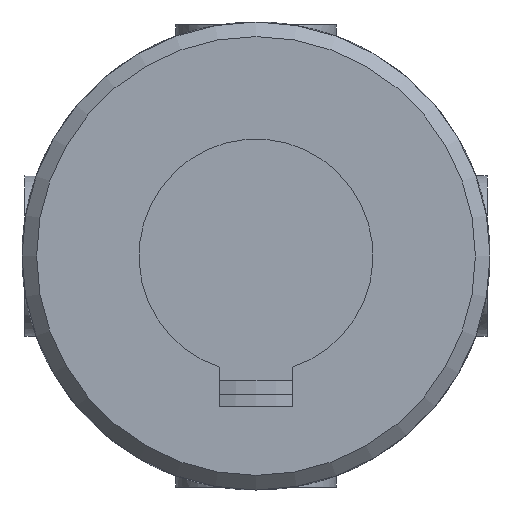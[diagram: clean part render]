
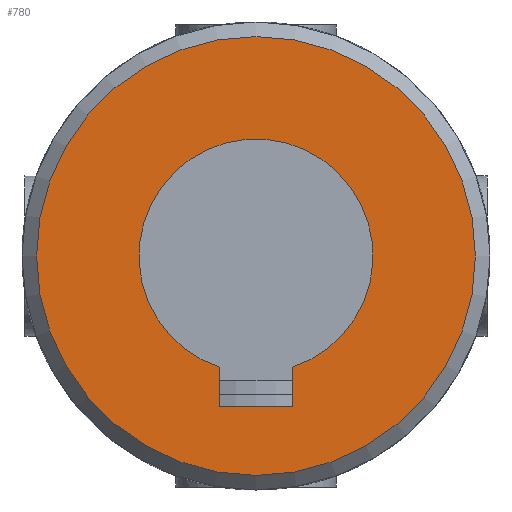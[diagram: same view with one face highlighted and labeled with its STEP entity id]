
A CAD part, front view. The second image highlights one B-rep face of the part: STEP entity #780.
In plain terms, the highlighted planar face has unit normal (0, -1, 0).
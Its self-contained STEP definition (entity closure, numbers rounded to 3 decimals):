
#87=LINE('',#1204,#120);
#92=LINE('',#1221,#125);
#93=LINE('',#1230,#126);
#120=VECTOR('',#980,2.701);
#125=VECTOR('',#991,2.701);
#126=VECTOR('',#994,5.);
#152=PLANE('',#851);
#177=FACE_BOUND('',#269,.T.);
#204=FACE_OUTER_BOUND('',#268,.T.);
#268=EDGE_LOOP('',(#613));
#269=EDGE_LOOP('',(#614,#615,#616,#617));
#314=CIRCLE('',#839,8.);
#319=CIRCLE('',#849,15.);
#362=VERTEX_POINT('',#1193);
#363=VERTEX_POINT('',#1195);
#365=VERTEX_POINT('',#1203);
#371=VERTEX_POINT('',#1219);
#373=VERTEX_POINT('',#1236);
#441=EDGE_CURVE('',#363,#362,#314,.T.);
#444=EDGE_CURVE('',#365,#363,#87,.T.);
#452=EDGE_CURVE('',#362,#371,#92,.T.);
#454=EDGE_CURVE('',#371,#365,#93,.T.);
#457=EDGE_CURVE('',#373,#373,#319,.T.);
#613=ORIENTED_EDGE('',*,*,#457,.F.);
#614=ORIENTED_EDGE('',*,*,#452,.T.);
#615=ORIENTED_EDGE('',*,*,#454,.T.);
#616=ORIENTED_EDGE('',*,*,#444,.T.);
#617=ORIENTED_EDGE('',*,*,#441,.T.);
#780=ADVANCED_FACE('',(#204,#177),#152,.F.);
#839=AXIS2_PLACEMENT_3D('',#1196,#975,#976);
#849=AXIS2_PLACEMENT_3D('',#1237,#1003,#1004);
#851=AXIS2_PLACEMENT_3D('',#1449,#1011,#1012);
#975=DIRECTION('center_axis',(0.,1.,0.));
#976=DIRECTION('ref_axis',(-0.313,0.,0.95));
#980=DIRECTION('',(0.,0.,1.));
#991=DIRECTION('',(0.,0.,-1.));
#994=DIRECTION('',(-1.,0.,0.));
#1003=DIRECTION('center_axis',(0.,1.,0.));
#1004=DIRECTION('ref_axis',(1.,0.,0.));
#1011=DIRECTION('center_axis',(0.,1.,0.));
#1012=DIRECTION('ref_axis',(0.,0.,1.));
#1193=CARTESIAN_POINT('',(2.5,-42.,-7.599));
#1195=CARTESIAN_POINT('',(-2.5,-42.,-7.599));
#1196=CARTESIAN_POINT('Origin',(0.,-42.,0.));
#1203=CARTESIAN_POINT('',(-2.5,-42.,-10.3));
#1204=CARTESIAN_POINT('',(-2.5,-42.,-5.15));
#1219=CARTESIAN_POINT('',(2.5,-42.,-10.3));
#1221=CARTESIAN_POINT('',(2.5,-42.,-3.8));
#1230=CARTESIAN_POINT('',(1.25,-42.,-10.3));
#1236=CARTESIAN_POINT('',(-15.,-42.,0.));
#1237=CARTESIAN_POINT('Origin',(0.,-42.,0.));
#1449=CARTESIAN_POINT('Origin',(0.,-42.,0.));
